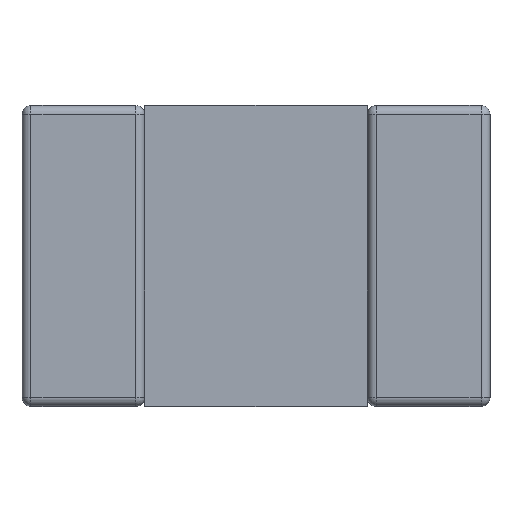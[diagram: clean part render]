
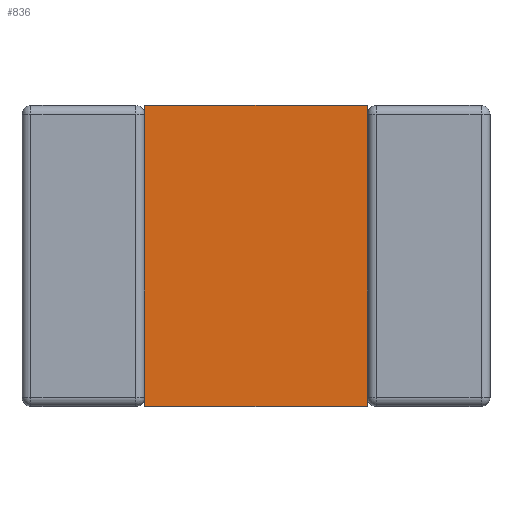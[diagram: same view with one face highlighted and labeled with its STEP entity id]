
A CAD part, top view. The second image highlights one B-rep face of the part: STEP entity #836.
In plain terms, the highlighted planar face has unit normal (0, 0, 1).
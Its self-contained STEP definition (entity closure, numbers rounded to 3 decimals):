
#27=PLANE('',#942);
#84=LINE('',#1424,#144);
#85=LINE('',#1426,#145);
#86=LINE('',#1428,#146);
#87=LINE('',#1429,#147);
#144=VECTOR('',#1201,1.);
#145=VECTOR('',#1202,1.);
#146=VECTOR('',#1203,1.);
#147=VECTOR('',#1204,1.);
#227=FACE_OUTER_BOUND('',#283,.T.);
#283=EDGE_LOOP('',(#690,#691,#692,#693));
#390=VERTEX_POINT('',#1422);
#391=VERTEX_POINT('',#1423);
#392=VERTEX_POINT('',#1425);
#393=VERTEX_POINT('',#1427);
#494=EDGE_CURVE('',#390,#391,#84,.T.);
#495=EDGE_CURVE('',#391,#392,#85,.T.);
#496=EDGE_CURVE('',#392,#393,#86,.T.);
#497=EDGE_CURVE('',#393,#390,#87,.T.);
#690=ORIENTED_EDGE('',*,*,#494,.T.);
#691=ORIENTED_EDGE('',*,*,#495,.T.);
#692=ORIENTED_EDGE('',*,*,#496,.T.);
#693=ORIENTED_EDGE('',*,*,#497,.T.);
#836=ADVANCED_FACE('',(#227),#27,.F.);
#942=AXIS2_PLACEMENT_3D('',#1421,#1199,#1200);
#1199=DIRECTION('center_axis',(0.,0.,
-1.));
#1200=DIRECTION('ref_axis',(0.,1.,0.));
#1201=DIRECTION('',(-1.,0.,0.));
#1202=DIRECTION('',(0.,-1.,0.));
#1203=DIRECTION('',(1.,0.,0.));
#1204=DIRECTION('',(0.,1.,0.));
#1421=CARTESIAN_POINT('Origin',(0.,0.,0.5));
#1422=CARTESIAN_POINT('',(0.5,0.675,0.5));
#1423=CARTESIAN_POINT('',(-0.5,0.675,0.5));
#1424=CARTESIAN_POINT('',(0.,0.675,0.5));
#1425=CARTESIAN_POINT('',(-0.5,-0.675,0.5));
#1426=CARTESIAN_POINT('',(-0.5,0.,0.5));
#1427=CARTESIAN_POINT('',(0.5,-0.675,0.5));
#1428=CARTESIAN_POINT('',(0.,-0.675,0.5));
#1429=CARTESIAN_POINT('',(0.5,0.,0.5));
